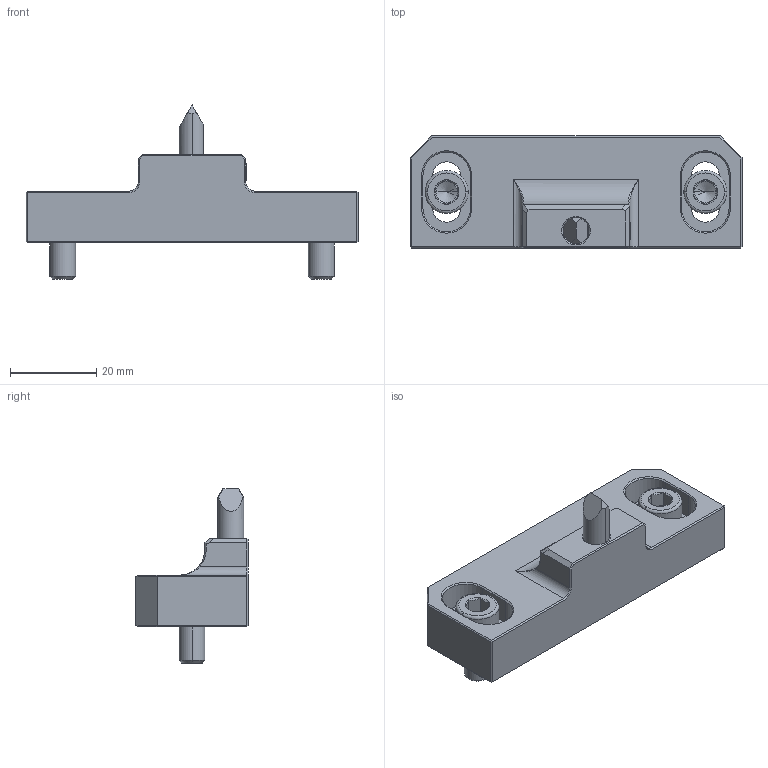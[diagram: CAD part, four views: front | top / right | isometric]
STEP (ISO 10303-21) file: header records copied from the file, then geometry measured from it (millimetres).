
FILE_DESCRIPTION (( 'STEP AP203' ), '1' );
FILE_NAME ('41010.STEP', '2014-10-23T06:56:35', ( '' ), ( '' ), 'SwSTEP 2.0', 'SolidWorks 2011', '' );
FILE_SCHEMA (( 'CONFIG_CONTROL_DESIGN' ));
Length unit declared in the file: millimetre
Products named in the file (3): 41010; 41010-01; 41010-02
Assembly tree (2 placements, depth 2):
  41010
    41010-02
    41010-01
Bounding box: 77 x 26 x 40.4 mm (x, y, z)
Volume: 24430 mm3; surface area: 9858.7 mm2
Topology: 5 solids, 5 shells, 201 faces, 457 edges, 266 vertices
Faces by surface type: plane 106, cone 53, cylinder 28, torus 12, bspline 2
Entity records: 6041 total; most frequent: CARTESIAN_POINT 1271, DIRECTION 955, ORIENTED_EDGE 902, EDGE_CURVE 451, AXIS2_PLACEMENT_3D 338, VECTOR 279, LINE 279, VERTEX_POINT 266
